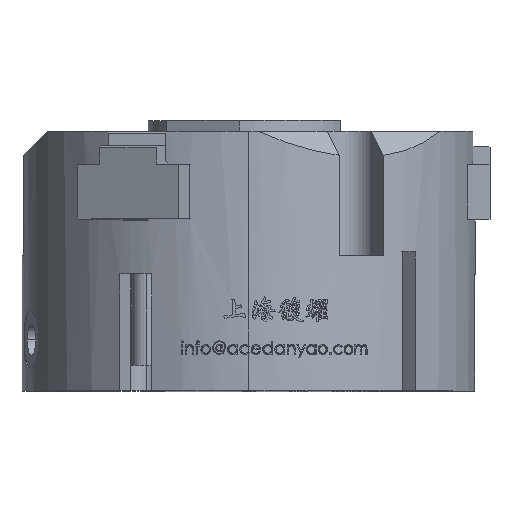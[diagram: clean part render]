
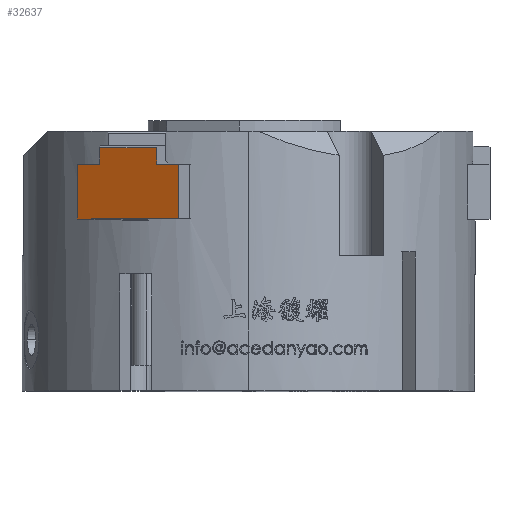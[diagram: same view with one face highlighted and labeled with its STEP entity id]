
A CAD part, top view. The second image highlights one B-rep face of the part: STEP entity #32637.
In plain terms, the highlighted planar face has unit normal (-0.5, 0, 0.866) as drawn and (1, 0, 0) by its records, which use the part's own axes.
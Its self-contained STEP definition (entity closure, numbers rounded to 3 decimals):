
#83 = EDGE_CURVE ( 'NONE', #5390, #75596, #62576, .T. ) ;
#495 = ORIENTED_EDGE ( 'NONE', *, *, #72920, .F. ) ;
#952 = VECTOR ( 'NONE', #6680, 1000. ) ;
#3158 = VECTOR ( 'NONE', #10018, 1000. ) ;
#3804 = CARTESIAN_POINT ( 'NONE',  ( 0., 0., 16. ) ) ;
#5324 = DIRECTION ( 'NONE',  ( 0., 0., 1. ) ) ;
#5337 = LINE ( 'NONE', #34587, #952 ) ;
#5390 = VERTEX_POINT ( 'NONE', #62594 ) ;
#5420 = LINE ( 'NONE', #19305, #80083 ) ;
#6359 = LINE ( 'NONE', #74704, #43679 ) ;
#6680 = DIRECTION ( 'NONE',  ( 0., 1., 0. ) ) ;
#10018 = DIRECTION ( 'NONE',  ( 0., 1., 0. ) ) ;
#10812 = CARTESIAN_POINT ( 'NONE',  ( 0., 15., 16. ) ) ;
#10958 = VECTOR ( 'NONE', #17837, 1000. ) ;
#13155 = LINE ( 'NONE', #10812, #10958 ) ;
#15894 = LINE ( 'NONE', #76844, #51010 ) ;
#17837 = DIRECTION ( 'NONE',  ( 0., 0., -1. ) ) ;
#19305 = CARTESIAN_POINT ( 'NONE',  ( 0., 15., 16. ) ) ;
#20277 = ORIENTED_EDGE ( 'NONE', *, *, #83, .F. ) ;
#21802 = LINE ( 'NONE', #33750, #61279 ) ;
#22492 = ORIENTED_EDGE ( 'NONE', *, *, #72491, .F. ) ;
#23646 = ORIENTED_EDGE ( 'NONE', *, *, #69715, .F. ) ;
#25303 = CARTESIAN_POINT ( 'NONE',  ( 0., 15., -9. ) ) ;
#25309 = VECTOR ( 'NONE', #27390, 1000. ) ;
#26744 = AXIS2_PLACEMENT_3D ( 'NONE', #81710, #47318, #5324 ) ;
#27390 = DIRECTION ( 'NONE',  ( 0., 0., -1. ) ) ;
#32637 = ADVANCED_FACE ( 'NONE', ( #50711 ), #47030, .F. ) ;
#32666 = DIRECTION ( 'NONE',  ( 0., 0., -1. ) ) ;
#33750 = CARTESIAN_POINT ( 'NONE',  ( 0., 19.5, -9. ) ) ;
#34587 = CARTESIAN_POINT ( 'NONE',  ( 0., 19.5, 9. ) ) ;
#34812 = DIRECTION ( 'NONE',  ( 0., -1., 0. ) ) ;
#38853 = ORIENTED_EDGE ( 'NONE', *, *, #86905, .F. ) ;
#41260 = CARTESIAN_POINT ( 'NONE',  ( 0., 19.5, -9. ) ) ;
#41832 = CARTESIAN_POINT ( 'NONE',  ( 0., 15., -16. ) ) ;
#43598 = EDGE_LOOP ( 'NONE', ( #23646, #22492, #20277, #88305, #79536, #495, #66309, #38853 ) ) ;
#43679 = VECTOR ( 'NONE', #32666, 1000. ) ;
#43885 = CARTESIAN_POINT ( 'NONE',  ( 0., 15., 16. ) ) ;
#44818 = EDGE_CURVE ( 'NONE', #66720, #72066, #6359, .T. ) ;
#47030 = PLANE ( 'NONE',  #26744 ) ;
#47318 = DIRECTION ( 'NONE',  ( -1., 0., 0. ) ) ;
#50711 = FACE_OUTER_BOUND ( 'NONE', #43598, .T. ) ;
#51010 = VECTOR ( 'NONE', #34812, 1000. ) ;
#52036 = CARTESIAN_POINT ( 'NONE',  ( 0., 19.5, 16. ) ) ;
#54706 = LINE ( 'NONE', #52036, #3158 ) ;
#56644 = VERTEX_POINT ( 'NONE', #41832 ) ;
#61279 = VECTOR ( 'NONE', #84957, 1000. ) ;
#62576 = LINE ( 'NONE', #69366, #25309 ) ;
#62594 = CARTESIAN_POINT ( 'NONE',  ( 0., 19.5, 9. ) ) ;
#66309 = ORIENTED_EDGE ( 'NONE', *, *, #44818, .T. ) ;
#66720 = VERTEX_POINT ( 'NONE', #3804 ) ;
#67651 = EDGE_CURVE ( 'NONE', #87272, #70533, #13155, .T. ) ;
#68378 = DIRECTION ( 'NONE',  ( 0., 0., -1. ) ) ;
#69366 = CARTESIAN_POINT ( 'NONE',  ( 0., 19.5, 16. ) ) ;
#69715 = EDGE_CURVE ( 'NONE', #70345, #56644, #5420, .T. ) ;
#70345 = VERTEX_POINT ( 'NONE', #25303 ) ;
#70533 = VERTEX_POINT ( 'NONE', #77372 ) ;
#72044 = CARTESIAN_POINT ( 'NONE',  ( 0., 0., -16. ) ) ;
#72066 = VERTEX_POINT ( 'NONE', #72044 ) ;
#72491 = EDGE_CURVE ( 'NONE', #75596, #70345, #21802, .T. ) ;
#72820 = EDGE_CURVE ( 'NONE', #70533, #5390, #5337, .T. ) ;
#72920 = EDGE_CURVE ( 'NONE', #66720, #87272, #54706, .T. ) ;
#74704 = CARTESIAN_POINT ( 'NONE',  ( 0., 0., 16. ) ) ;
#75596 = VERTEX_POINT ( 'NONE', #41260 ) ;
#76844 = CARTESIAN_POINT ( 'NONE',  ( 0., 24., -16. ) ) ;
#77372 = CARTESIAN_POINT ( 'NONE',  ( 0., 15., 9. ) ) ;
#79536 = ORIENTED_EDGE ( 'NONE', *, *, #67651, .F. ) ;
#80083 = VECTOR ( 'NONE', #68378, 1000. ) ;
#81710 = CARTESIAN_POINT ( 'NONE',  ( 0., 19.5, 16. ) ) ;
#84957 = DIRECTION ( 'NONE',  ( 0., -1., 0. ) ) ;
#86905 = EDGE_CURVE ( 'NONE', #56644, #72066, #15894, .T. ) ;
#87272 = VERTEX_POINT ( 'NONE', #43885 ) ;
#88305 = ORIENTED_EDGE ( 'NONE', *, *, #72820, .F. ) ;
